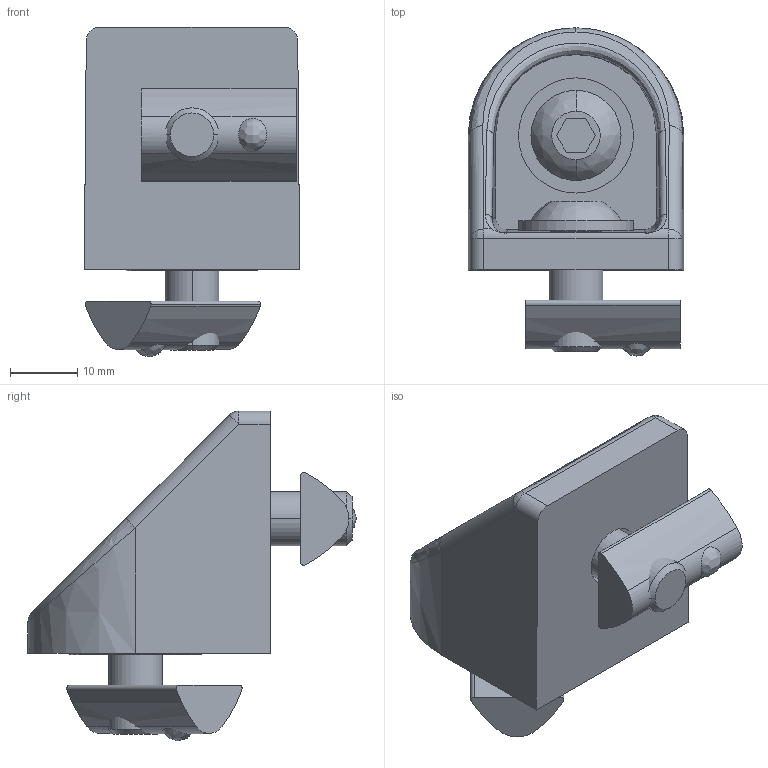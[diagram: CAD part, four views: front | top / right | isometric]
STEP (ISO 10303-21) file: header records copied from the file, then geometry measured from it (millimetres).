
FILE_DESCRIPTION (( 'STEP AP203' ), '1' );
FILE_NAME ('30014_GELSTZ.STEP', '2018-02-09T10:42:01', ( '' ), ( '' ), 'SwSTEP 2.0', 'SolidWorks 2017', '' );
FILE_SCHEMA (( 'CONFIG_CONTROL_DESIGN' ));
Length unit declared in the file: millimetre
Products named in the file (5): Linsenflanschschraube_M8x18; 30014_GELSTZ; 10161_grundelement; 10358-01-0000-00_nutenstein m8; 10161_lagerbuchse
Assembly tree (6 placements, depth 2):
  30014_GELSTZ
    Linsenflanschschraube_M8x18  x2
    10358-01-0000-00_nutenstein m8  x2
    10161_grundelement
    10161_lagerbuchse
Bounding box: 32 x 48.8 x 49 mm (x, y, z)
Volume: 20021.3 mm3; surface area: 11732.7 mm2
Topology: 6 solids, 6 shells, 122 faces, 289 edges, 187 vertices
Faces by surface type: cylinder 47, plane 42, bspline 17, cone 16
Entity records: 4185 total; most frequent: CARTESIAN_POINT 1577, DIRECTION 436, ORIENTED_EDGE 420, EDGE_CURVE 210, AXIS2_PLACEMENT_3D 172, VERTEX_POINT 135, EDGE_LOOP 101, LINE 92
